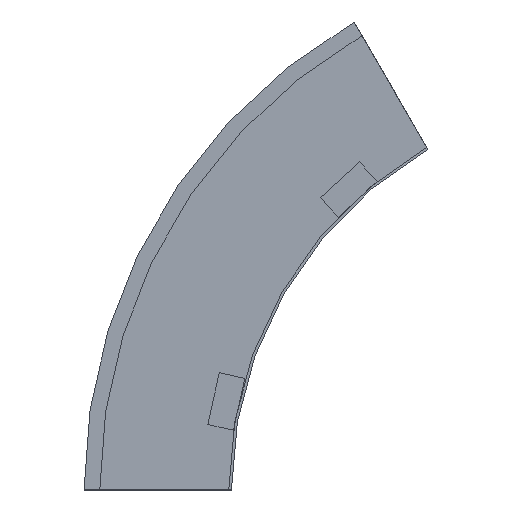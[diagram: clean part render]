
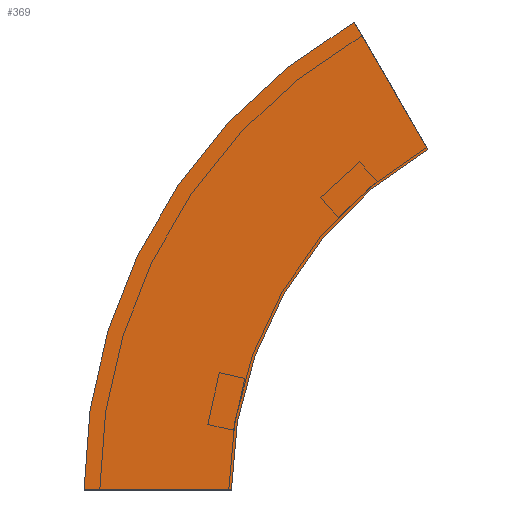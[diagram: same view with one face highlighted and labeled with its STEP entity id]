
A CAD part, left-side view. The second image highlights one B-rep face of the part: STEP entity #369.
In plain terms, the highlighted planar face has unit normal (-1, 0, 0) as drawn and (1, 0, 0) by its records, which use the part's own axes.
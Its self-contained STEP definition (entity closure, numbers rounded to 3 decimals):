
#34 = CARTESIAN_POINT ( 'NONE',  ( 0., 0., 0. ) ) ;
#37 = CARTESIAN_POINT ( 'NONE',  ( 0., -300., 0. ) ) ;
#38 = EDGE_LOOP ( 'NONE', ( #464, #420, #370, #425 ) ) ;
#39 = DIRECTION ( 'NONE',  ( 0., 1., 0. ) ) ;
#60 = VERTEX_POINT ( 'NONE', #203 ) ;
#76 = DIRECTION ( 'NONE',  ( 0., 1., 0. ) ) ;
#115 = LINE ( 'NONE', #34, #547 ) ;
#142 = AXIS2_PLACEMENT_3D ( 'NONE', #340, #432, #377 ) ;
#146 = CARTESIAN_POINT ( 'NONE',  ( 0., -150., 259.808 ) ) ;
#159 = DIRECTION ( 'NONE',  ( 0., 0.5, 0.866 ) ) ;
#160 = VERTEX_POINT ( 'NONE', #265 ) ;
#203 = CARTESIAN_POINT ( 'NONE',  ( 0., 112.5, 0. ) ) ;
#234 = AXIS2_PLACEMENT_3D ( 'NONE', #37, #568, #39 ) ;
#250 = CARTESIAN_POINT ( 'NONE',  ( 0., -150., 259.808 ) ) ;
#251 = CARTESIAN_POINT ( 'NONE',  ( 0., -93.75, 357.235 ) ) ;
#259 = DIRECTION ( 'NONE',  ( 1., 0., 0. ) ) ;
#265 = CARTESIAN_POINT ( 'NONE',  ( 0., 0., 0. ) ) ;
#319 = LINE ( 'NONE', #250, #353 ) ;
#332 = CIRCLE ( 'NONE', #416, 412.5 ) ;
#335 = EDGE_CURVE ( 'NONE', #397, #546, #319, .T. ) ;
#340 = CARTESIAN_POINT ( 'NONE',  ( 0., 0., 0. ) ) ;
#353 = VECTOR ( 'NONE', #159, 1000. ) ;
#369 = ADVANCED_FACE ( 'NONE', ( #471 ), #380, .T. ) ;
#370 = ORIENTED_EDGE ( 'NONE', *, *, #435, .F. ) ;
#377 = DIRECTION ( 'NONE',  ( 0., 0., -1. ) ) ;
#380 = PLANE ( 'NONE',  #142 ) ;
#397 = VERTEX_POINT ( 'NONE', #146 ) ;
#416 = AXIS2_PLACEMENT_3D ( 'NONE', #479, #259, #76 ) ;
#420 = ORIENTED_EDGE ( 'NONE', *, *, #335, .F. ) ;
#422 = EDGE_CURVE ( 'NONE', #60, #546, #332, .T. ) ;
#425 = ORIENTED_EDGE ( 'NONE', *, *, #459, .T. ) ;
#432 = DIRECTION ( 'NONE',  ( 1., 0., 0. ) ) ;
#435 = EDGE_CURVE ( 'NONE', #160, #397, #488, .T. ) ;
#459 = EDGE_CURVE ( 'NONE', #160, #60, #115, .T. ) ;
#464 = ORIENTED_EDGE ( 'NONE', *, *, #422, .T. ) ;
#471 = FACE_OUTER_BOUND ( 'NONE', #38, .T. ) ;
#479 = CARTESIAN_POINT ( 'NONE',  ( 0., -300., 0. ) ) ;
#488 = CIRCLE ( 'NONE', #234, 300. ) ;
#515 = DIRECTION ( 'NONE',  ( 0., 1., 0. ) ) ;
#546 = VERTEX_POINT ( 'NONE', #251 ) ;
#547 = VECTOR ( 'NONE', #515, 1000. ) ;
#568 = DIRECTION ( 'NONE',  ( 1., 0., 0. ) ) ;
